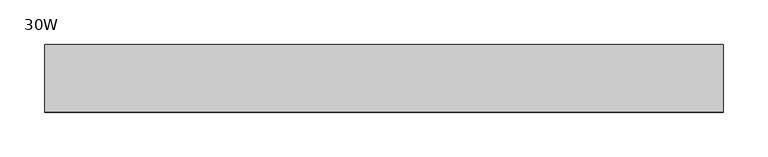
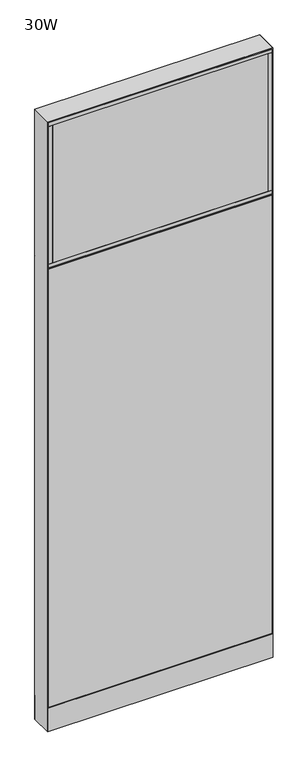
"""IFC4 building model written with IfcOpenShell, lengths in millimetres: furniture geometry, Steelcase - Montage - Frame - 86H - Enhanced Standard - Base Cavity : 30W."""

import ifcopenshell
import ifcopenshell.guid

model = None  # the IFC model being written
_history = None  # IfcOwnerHistory: only IFC2X3 demands one
_inside = {}  # id of a spatial element -> (the spatial element, [elements in it])
_under = {}  # id of a project, library or spatial element -> (it, [spatial elements below it])
_declared = {}  # id of a project -> (the project, [libraries it declares])
_typed = {}  # id of a type object -> (the type object, [elements of that type])
_made_of = {}  # id of a material, layer set ... -> (it, [elements and type objects made of it])


def new_model(schema):
    """Start an empty IFC model of exactly this schema.

    Asked for "IFC4X3", IfcOpenShell would pick the latest addendum, in which some entities
    have other attributes; the version numbers below select the first issue.
    IFC2X3 requires an IfcOwnerHistory on every rooted entity: one is made here for all.
    """
    global model, _history
    if schema == "IFC4X3":
        model = ifcopenshell.file(schema_version=(4, 3, 0, 0))
    else:
        model = ifcopenshell.file(schema=schema)
    _inside.clear()
    _under.clear()
    _declared.clear()
    _typed.clear()
    _made_of.clear()
    _history = None
    if model.schema == "IFC2X3":
        org = make("IfcOrganization", Name="unknown")
        user = make(
            "IfcPersonAndOrganization",
            ThePerson=make("IfcPerson", FamilyName="unknown"),
            TheOrganization=org,
        )
        app = make(
            "IfcApplication",
            ApplicationDeveloper=org,
            Version="unknown",
            ApplicationFullName="unknown",
            ApplicationIdentifier="unknown",
        )
        _history = make(
            "IfcOwnerHistory",
            OwningUser=user,
            OwningApplication=app,
            ChangeAction="ADDED",
            CreationDate=0,
        )
    return model


def make(cls, **values):
    """One entity of the class cls with the attributes given. An attribute that is None is left unset."""
    return model.create_entity(
        cls, **{name: value for name, value in values.items() if value is not None}
    )


def rooted(cls, **values):
    """An entity with a GlobalId (a new one), such as an element, a storey or a relation."""
    return make(cls, GlobalId=ifcopenshell.guid.new(), OwnerHistory=_history, **values)


def si_unit(unit_type, name, prefix=None):
    """IfcSIUnit, for example si_unit("LENGTHUNIT", "METRE", prefix="MILLI")."""
    return make("IfcSIUnit", UnitType=unit_type, Prefix=prefix, Name=name)


def assignment(units):
    """IfcUnitAssignment: the units of a project."""
    return None if units is None else make("IfcUnitAssignment", Units=units)


def point(xyz):
    """IfcCartesianPoint."""
    return None if xyz is None else make("IfcCartesianPoint", Coordinates=xyz)


def direction(xyz):
    """IfcDirection."""
    return None if xyz is None else make("IfcDirection", DirectionRatios=xyz)


def frame(location, z_axis=None, x_axis=None):
    """IfcAxis2Placement3D, a coordinate frame: its origin and axes. An axis left out is left unset."""
    return make(
        "IfcAxis2Placement3D",
        Location=point(location),
        Axis=direction(z_axis),
        RefDirection=direction(x_axis),
    )


def frame_2d(location, x_axis=None):
    """IfcAxis2Placement2D, a coordinate frame in the plane: its origin and x axis."""
    return make(
        "IfcAxis2Placement2D", Location=point(location), RefDirection=direction(x_axis)
    )


def origin():
    """The frame at (0, 0, 0) with its axes left unset."""
    return frame((0.0, 0.0, 0.0))


def origin_with_axes():
    """The frame at (0, 0, 0) with the z axis (0, 0, 1) and the x axis (1, 0, 0) written out."""
    return frame((0.0, 0.0, 0.0), z_axis=(0.0, 0.0, 1.0), x_axis=(1.0, 0.0, 0.0))


def place(relative_to, where):
    """IfcLocalPlacement: puts the frame where relative to a parent placement (None: the world)."""
    return make(
        "IfcLocalPlacement", PlacementRelTo=relative_to, RelativePlacement=where
    )


def context(
    kind, dimensions, precision=None, world=None, true_north=None, identifier=None
):
    """IfcGeometricRepresentationContext, for example the 3D "Model" context."""
    return make(
        "IfcGeometricRepresentationContext",
        ContextIdentifier=identifier,
        ContextType=kind,
        CoordinateSpaceDimension=dimensions,
        Precision=precision,
        WorldCoordinateSystem=world,
        TrueNorth=true_north,
    )


def project(units=None, contexts=None):
    """IfcProject with its units and contexts."""
    return rooted(
        "IfcProject",
        Name="project",
        RepresentationContexts=contexts,
        UnitsInContext=assignment(units),
    )


def spatial(cls, under=None, at=None, **own):
    """A site, building, storey or space (cls), placed at a placement, below another one or the project."""
    s = rooted(cls, ObjectPlacement=at, **own)
    if under is not None:
        _under.setdefault(under.id(), (under, []))[1].append(s)
    return s


def polyline(points):
    """IfcPolyline through the points."""
    return make("IfcPolyline", Points=[point(p) for p in points])


def circle_curve(where, radius):
    """IfcCircle in the frame where."""
    return make("IfcCircle", Position=where, Radius=radius)


def trimmed(basis, trim1, trim2, sense, master):
    """IfcTrimmedCurve: the piece of a basis curve between two trims."""
    return make(
        "IfcTrimmedCurve",
        BasisCurve=basis,
        Trim1=trim1,
        Trim2=trim2,
        SenseAgreement=sense,
        MasterRepresentation=master,
    )


def segment(curve, same_sense, transition):
    """IfcCompositeCurveSegment."""
    return make(
        "IfcCompositeCurveSegment",
        Transition=transition,
        SameSense=same_sense,
        ParentCurve=curve,
    )


def composite_curve(segments, self_intersect=None):
    """IfcCompositeCurve: segments joined end to end."""
    return make("IfcCompositeCurve", Segments=segments, SelfIntersect=self_intersect)


def outline(outer, holes=None, kind="AREA"):
    """IfcArbitraryClosedProfileDef: a profile drawn as a closed curve; with holes, ...WithVoids."""
    if holes is None:
        return make("IfcArbitraryClosedProfileDef", ProfileType=kind, OuterCurve=outer)
    return make(
        "IfcArbitraryProfileDefWithVoids",
        ProfileType=kind,
        OuterCurve=outer,
        InnerCurves=holes,
    )


def extrude(swept, where, along, depth):
    """IfcExtrudedAreaSolid: the profile swept, set in the frame where, extruded along a direction by depth."""
    return make(
        "IfcExtrudedAreaSolid",
        SweptArea=swept,
        Position=where,
        ExtrudedDirection=direction(along),
        Depth=depth,
    )


def faces_of(points, faces, orient=None, outer=None):
    """IfcFace entities. A face is a list of loops; a loop is a list of indices into points, from 0.

    orient and outer hold one flag for each loop. By default every Orientation is true, the
    first loop of a face is its IfcFaceOuterBound and the others are IfcFaceBound.
    """
    made = []
    for i, loops in enumerate(faces):
        bounds = []
        for j, loop in enumerate(loops):
            is_outer = j == 0 if outer is None else outer[i][j]
            bounds.append(
                make(
                    "IfcFaceOuterBound" if is_outer else "IfcFaceBound",
                    Bound=make("IfcPolyLoop", Polygon=[points[k] for k in loop]),
                    Orientation=True if orient is None else orient[i][j],
                )
            )
        made.append(make("IfcFace", Bounds=bounds))
    return made


def faceted_brep(points, faces, orient=None, outer=None, voids=None):
    """IfcFacetedBrep: a solid bounded by flat faces; with voids (closed shells), ...WithVoids."""
    shared = [point(p) for p in points]
    hull = make("IfcClosedShell", CfsFaces=faces_of(shared, faces, orient, outer))
    if voids is None:
        return make("IfcFacetedBrep", Outer=hull)
    return make(
        "IfcFacetedBrepWithVoids",
        Outer=hull,
        Voids=[
            make(cls, CfsFaces=faces_of(shared, fs, o, b)) for cls, fs, o, b in voids
        ],
    )


def shape(context_of_items, identifier, shape_type, items):
    """IfcShapeRepresentation: the items that make up one representation, for example the "Body"."""
    return make(
        "IfcShapeRepresentation",
        ContextOfItems=context_of_items,
        RepresentationIdentifier=identifier,
        RepresentationType=shape_type,
        Items=items,
    )


def source(mapping_origin, context_of_items, identifier, shape_type, items):
    """IfcRepresentationMap: a shape defined once, which mapped items show again and again."""
    return make(
        "IfcRepresentationMap",
        MappingOrigin=mapping_origin,
        MappedRepresentation=shape(context_of_items, identifier, shape_type, items),
    )


def transform(
    local_origin,
    x_axis=None,
    y_axis=None,
    z_axis=None,
    scale=None,
    scale2=None,
    scale3=None,
    uniform=True,
):
    """IfcCartesianTransformationOperator3D, or its non-uniform kind. x_axis, y_axis, z_axis: its Axis1, 2, 3."""
    if uniform:
        return make(
            "IfcCartesianTransformationOperator3D",
            Axis1=direction(x_axis),
            Axis2=direction(y_axis),
            LocalOrigin=point(local_origin),
            Scale=scale,
            Axis3=direction(z_axis),
        )
    return make(
        "IfcCartesianTransformationOperator3DnonUniform",
        Axis1=direction(x_axis),
        Axis2=direction(y_axis),
        LocalOrigin=point(local_origin),
        Scale=scale,
        Axis3=direction(z_axis),
        Scale2=scale2,
        Scale3=scale3,
    )


def mapped(mapping_source, mapping_target):
    """IfcMappedItem: shows the shape of a source again, moved by a transform."""
    return make(
        "IfcMappedItem", MappingSource=mapping_source, MappingTarget=mapping_target
    )


def made_of(thing, what):
    """Note that an element or type object is made of a material, layer set ...; save() writes the relation."""
    if what is not None:
        _made_of.setdefault(what.id(), (what, []))[1].append(thing)
    return thing


def element(
    cls,
    number,
    at=None,
    inside=None,
    cuts=None,
    type_object=None,
    material=None,
    context=None,
    identifier="Body",
    shape_type=None,
    held_by="IfcProductDefinitionShape",
    body=None,
    shapes=None,
    **own,
):
    """One element of the class cls, such as IfcWall. Its Tag is "e" and its number.

    at: its placement. inside: the storey or other place that contains it. cuts: it is an
    opening in that element (IfcRelVoidsElement). A single representation is given by context,
    identifier, shape_type and body (its items); several are given by shapes. held_by: the class
    of the entity that holds the representations. save() writes the other relations.
    """
    e = rooted(cls, Tag="e%d" % number, ObjectPlacement=at, **own)
    if body is not None:
        shapes = [shape(context, identifier, shape_type, body)]
    if shapes is not None:
        e.Representation = make(held_by, Representations=shapes)
    if inside is not None:
        _inside.setdefault(inside.id(), (inside, []))[1].append(e)
    if cuts is not None:
        rooted(
            "IfcRelVoidsElement", RelatingBuildingElement=cuts, RelatedOpeningElement=e
        )
    if type_object is not None:
        _typed.setdefault(type_object.id(), (type_object, []))[1].append(e)
    return made_of(e, material)


def aggregate(whole, parts):
    """IfcRelAggregates: a whole, such as a stair, and the parts it consists of."""
    return rooted("IfcRelAggregates", RelatingObject=whole, RelatedObjects=parts)


def save(model, path):
    """Write the relations noted so far, then the file.

    IfcRelAggregates (storeys below a building ...), IfcRelContainedInSpatialStructure (elements
    in a storey), IfcRelDefinesByType, IfcRelAssociatesMaterial and IfcRelDeclares: one each for
    every whole, place, type object, material and project.
    """
    for whole, parts in _under.values():
        aggregate(whole, parts)
    for where, things in _inside.values():
        rooted(
            "IfcRelContainedInSpatialStructure",
            RelatedElements=things,
            RelatingStructure=where,
        )
    for kind, things in _typed.values():
        rooted("IfcRelDefinesByType", RelatedObjects=things, RelatingType=kind)
    for what, things in _made_of.values():
        rooted("IfcRelAssociatesMaterial", RelatedObjects=things, RelatingMaterial=what)
    for by, libraries in _declared.values():
        rooted("IfcRelDeclares", RelatingContext=by, RelatedDefinitions=libraries)
    model.write(path)


def furniture_30w_15590371(model_context):
    return source(origin(), model_context, "Body", "SolidModel", [
        faceted_brep([(-5.4e-06, 38.102627, 1660.5250027), (6.3499917, 31.7526299, 1666.8749997), (755.6500047, 31.7526299, 1666.8749997), (762.0, 38.1026253, 1660.5250044), (755.6500047, 31.7526299, 1654.1750003), (6.3499917, 31.7526299, 1654.1750003)], [[[0, 1, 2, 3]], [[3, 4, 5, 0]], [[1, 5, 4, 2]], [[0, 5, 1]], [[2, 4, 3]]]),
        extrude(outline(polyline([(746.125, 38.1000015), (746.125, 31.7500017), (15.875, 31.7500017), (15.875, 38.1000015), (746.125, 38.1000015)])), frame((0.0, 0.0, 1676.4), z_axis=(0.0, 0.0, 1.0), x_axis=(1.0, 0.0, 0.0)), (0.0, 0.0, 1.0), 492.125),
        extrude(outline(polyline([(746.125, -31.7499985), (746.125, -38.1000015), (15.875, -38.1000015), (15.875, -31.7499985), (746.125, -31.7499985)])), frame((0.0, 0.0, 1676.4), z_axis=(0.0, 0.0, 1.0), x_axis=(1.0, 0.0, 0.0)), (0.0, 0.0, 1.0), 492.125),
        extrude(outline(polyline([(758.825, -38.1000015), (746.125, -38.1000015), (746.125, 38.1000015), (758.825, 38.1000015), (758.825, -38.1000015)])), frame((0.0, 0.0, 1676.4), z_axis=(0.0, 0.0, 1.0), x_axis=(1.0, 0.0, 0.0)), (0.0, 0.0, 1.0), 492.125),
        extrude(outline(polyline([(15.875, -38.1000015), (3.175, -38.1000015), (3.175, 38.1000015), (15.875, 38.1000015), (15.875, -38.1000015)])), frame((0.0, 0.0, 1676.4), z_axis=(0.0, 0.0, 1.0), x_axis=(1.0, 0.0, 0.0)), (0.0, 0.0, 1.0), 492.125),
        extrude(outline(polyline([(758.825, -38.1000015), (3.175, -38.1000015), (3.175, 38.1000015), (758.825, 38.1000015), (758.825, -38.1000015)])), frame((0.0, 0.0, 1663.7), z_axis=(0.0, 0.0, 1.0), x_axis=(1.0, 0.0, 0.0)), (0.0, 0.0, 1.0), 12.7),
        extrude(outline(polyline([(758.825, -38.1000015), (3.175, -38.1000015), (3.175, 38.1000015), (758.825, 38.1000015), (758.825, -38.1000015)])), frame((0.0, 0.0, 2168.525), z_axis=(0.0, 0.0, 1.0), x_axis=(1.0, 0.0, 0.0)), (0.0, 0.0, 1.0), 12.7),
        extrude(outline(polyline([(3.175, 31.7500194), (3.175, 38.1000194), (758.825, 38.1000194), (758.825, 31.7500194), (3.175, 31.7500194)])), frame((0.0, 0.0, 92.075), z_axis=(0.0, 0.0, 1.0), x_axis=(1.0, 0.0, 0.0)), (0.0, 0.0, 1.0), 1565.275),
        faceted_brep([(0.0, -38.1026297, 1660.525), (762.0, -38.1026297, 1660.525), (755.6500047, -31.7526299, 1666.8749997), (6.3499917, -31.7526299, 1666.8749997), (6.3499917, -31.7526299, 1654.1750003), (755.6500047, -31.7526299, 1654.1750003)], [[[0, 1, 2, 3]], [[1, 0, 4, 5]], [[3, 2, 5, 4]], [[0, 3, 4]], [[2, 1, 5]]]),
        extrude(outline(polyline([(746.125, -38.1000015), (15.875, -38.1000015), (15.875, -31.7500017), (746.125, -31.7500017), (746.125, -38.1000015)])), frame((0.0, 0.0, 1676.4), z_axis=(0.0, 0.0, 1.0), x_axis=(1.0, 0.0, 0.0)), (0.0, 0.0, 1.0), 492.125),
        extrude(outline(polyline([(746.125, 31.7499985), (15.875, 31.7499985), (15.875, 38.1000015), (746.125, 38.1000015), (746.125, 31.7499985)])), frame((0.0, 0.0, 1676.4), z_axis=(0.0, 0.0, 1.0), x_axis=(1.0, 0.0, 0.0)), (0.0, 0.0, 1.0), 492.125),
        extrude(outline(polyline([(758.825, 38.1000015), (758.825, -38.1000015), (746.125, -38.1000015), (746.125, 38.1000015), (758.825, 38.1000015)])), frame((0.0, 0.0, 1676.4), z_axis=(0.0, 0.0, 1.0), x_axis=(1.0, 0.0, 0.0)), (0.0, 0.0, 1.0), 492.125),
        extrude(outline(polyline([(15.875, 38.1000015), (15.875, -38.1000015), (3.175, -38.1000015), (3.175, 38.1000015), (15.875, 38.1000015)])), frame((0.0, 0.0, 1676.4), z_axis=(0.0, 0.0, 1.0), x_axis=(1.0, 0.0, 0.0)), (0.0, 0.0, 1.0), 492.125),
        extrude(outline(polyline([(758.825, 38.1000015), (758.825, -38.1000015), (3.175, -38.1000015), (3.175, 38.1000015), (758.825, 38.1000015)])), frame((0.0, 0.0, 1663.7), z_axis=(0.0, 0.0, 1.0), x_axis=(1.0, 0.0, 0.0)), (0.0, 0.0, 1.0), 12.7),
        extrude(outline(polyline([(758.825, 38.1000015), (758.825, -38.1000015), (3.175, -38.1000015), (3.175, 38.1000015), (758.825, 38.1000015)])), frame((0.0, 0.0, 2168.525), z_axis=(0.0, 0.0, 1.0), x_axis=(1.0, 0.0, 0.0)), (0.0, 0.0, 1.0), 12.7),
        extrude(outline(polyline([(3.175, -31.7500194), (758.825, -31.7500194), (758.825, -38.1000194), (3.175, -38.1000194), (3.175, -31.7500194)])), frame((0.0, 0.0, 92.075), z_axis=(0.0, 0.0, 1.0), x_axis=(1.0, 0.0, 0.0)), (0.0, 0.0, 1.0), 1565.275),
        extrude(outline(polyline([(6.350003, -31.7499985), (755.649997, -31.7499985), (762.0, -38.1000015), (0.0, -38.1000015), (6.350003, -31.7499985)])), frame((0.0, 0.0, 4.064), z_axis=(0.0, 0.0, 1.0), x_axis=(1.0, 0.0, 0.0)), (0.0, 0.0, 1.0), 84.835997),
        extrude(outline(polyline([(6.3500002, 31.7500017), (0.0, 38.1000015), (762.0, 38.1000015), (755.6500002, 31.7500017), (6.3500002, 31.7500017)])), frame((0.0, 0.0, 4.064), z_axis=(0.0, 0.0, 1.0), x_axis=(1.0, 0.0, 0.0)), (0.0, 0.0, 1.0), 84.835997),
        faceted_brep([(762.0, -38.1000015, 2184.4), (0.0, -38.1000015, 2184.4), (6.3500484, -31.749953, 2178.0499516), (755.6499516, -31.749953, 2178.0499516), (6.3500484, 31.749953, 2178.0499516), (755.6499516, 31.749953, 2178.0499516), (0.0, 38.1000015, 2184.4), (762.0, 38.1000015, 2184.4)], [[[0, 1, 2, 3]], [[3, 2, 4, 5]], [[6, 7, 5, 4]], [[1, 0, 7, 6]], [[2, 1, 6, 4]], [[0, 3, 5, 7]]]),
        extrude(outline(composite_curve([segment(trimmed(circle_curve(frame_2d((44.45, 0.0)), 15.24), [point((29.21, 0.0))], [point((59.69, 0.0))], False, "CARTESIAN"), True, "CONTINUOUS"), segment(trimmed(circle_curve(frame_2d((44.45, 0.0)), 15.24), [point((59.69, 0.0))], [point((29.21, 0.0))], False, "CARTESIAN"), True, "CONTINUOUS")], self_intersect=False)), origin_with_axes(), (0.0, 0.0, 1.0), 4.064),
        extrude(outline(composite_curve([segment(trimmed(circle_curve(frame_2d((717.55, 0.0)), 15.24), [point((702.31, 0.0))], [point((732.79, 0.0))], False, "CARTESIAN"), True, "CONTINUOUS"), segment(trimmed(circle_curve(frame_2d((717.55, 0.0)), 15.24), [point((732.79, 0.0))], [point((702.31, 0.0))], False, "CARTESIAN"), True, "CONTINUOUS")], self_intersect=False)), origin_with_axes(), (0.0, 0.0, 1.0), 4.064),
        faceted_brep([(762.0, -38.1000106, 4.064), (762.0, 38.1000015, 4.064), (762.0, 38.1000015, 2184.4), (762.0, -38.1000106, 2184.3999637), (0.0, 38.1000015, 4.064), (0.0, -38.1000015, 4.064), (0.0, -38.1000015, 2184.4), (0.0, 38.1000015, 2184.4), (755.6499879, 31.7500017, 606.425), (6.35, 31.7500017, 606.425), (6.3499998, 31.7500017, 619.125), (755.6499879, 31.7500017, 619.125), (6.35, -31.7499985, 619.125), (755.6499879, -31.7499985, 619.125), (6.350003, -31.7499985, 606.425), (755.6499879, -31.7499985, 606.425), (755.6499879, 31.7500017, 1130.3), (6.35, 31.7500017, 1130.3), (6.3499998, 31.7500017, 1143.0), (755.6499879, 31.7500017, 1143.0), (6.35, -31.7499985, 1143.0), (755.6499879, -31.7499985, 1143.0), (6.350003, -31.7499985, 1130.3), (755.6499879, -31.7499985, 1130.3), (755.6499879, 31.7500017, 1654.175), (6.35, 31.7500017, 1654.175), (6.3499998, 31.7500017, 1666.875), (755.6499879, 31.7500017, 1666.875), (6.35, -31.7499985, 1666.875), (755.6499879, -31.7499985, 1666.875), (6.350003, -31.7499985, 1654.175), (755.6499879, -31.7499985, 1654.175), (6.35, 31.7500015, 4.064), (6.35, -31.7500015, 4.064), (755.6499879, 31.7499894, 4.064), (755.6499879, -31.7499985, 4.064), (6.35, 31.7500015, 2178.05), (6.35, -31.7500015, 2178.05), (755.6499879, -31.7499985, 2178.0499516), (755.6499879, 31.7499895, 2178.0499516)], [[[0, 1, 2, 3]], [[4, 5, 6, 7]], [[8, 9, 10, 11]], [[11, 10, 12, 13]], [[13, 12, 14, 15]], [[9, 8, 15, 14]], [[16, 17, 18, 19]], [[19, 18, 20, 21]], [[21, 20, 22, 23]], [[17, 16, 23, 22]], [[24, 25, 26, 27]], [[27, 26, 28, 29]], [[29, 28, 30, 31]], [[25, 24, 31, 30]], [[32, 33, 5, 4]], [[34, 1, 0, 35]], [[32, 4, 7, 36, 26, 25, 18, 17, 10, 9]], [[5, 33, 14, 12, 22, 20, 30, 28, 37, 6]], [[28, 26, 36, 37]], [[33, 32, 9, 14]], [[18, 25, 30, 20]], [[10, 17, 22, 12]], [[27, 29, 38, 39]], [[34, 35, 15, 8]], [[16, 11, 13, 23]], [[24, 19, 21, 31]], [[35, 0, 3, 38, 29, 31, 21, 23, 13, 15]], [[1, 34, 8, 11, 16, 19, 24, 27, 39, 2]], [[7, 6, 37, 36]], [[3, 2, 39, 38]]]),
    ])


if __name__ == "__main__":
    model = new_model("IFC4")
    model_context = context("Model", 3, world=origin())
    ifc_project = project(units=[si_unit("LENGTHUNIT", "METRE", prefix="MILLI")], contexts=[model_context])
    site = spatial("IfcSite", under=ifc_project)
    building = spatial("IfcBuilding", under=site)
    placement = place(None, origin())
    furniture_30w_shape = furniture_30w_15590371(model_context)
    element("IfcFurniture", 1, ObjectType="Steelcase - Montage - Frame - 86H - Enhanced Standard - Base Cavity : 30W", at=placement, inside=building, context=model_context, shape_type="MappedRepresentation", body=[
        mapped(furniture_30w_shape, transform((0.0, 0.0, 0.0), x_axis=(1.0, 0.0, 0.0), y_axis=(0.0, 1.0, 0.0), z_axis=(0.0, 0.0, 1.0))),
    ])
    save(model, "model.ifc")
